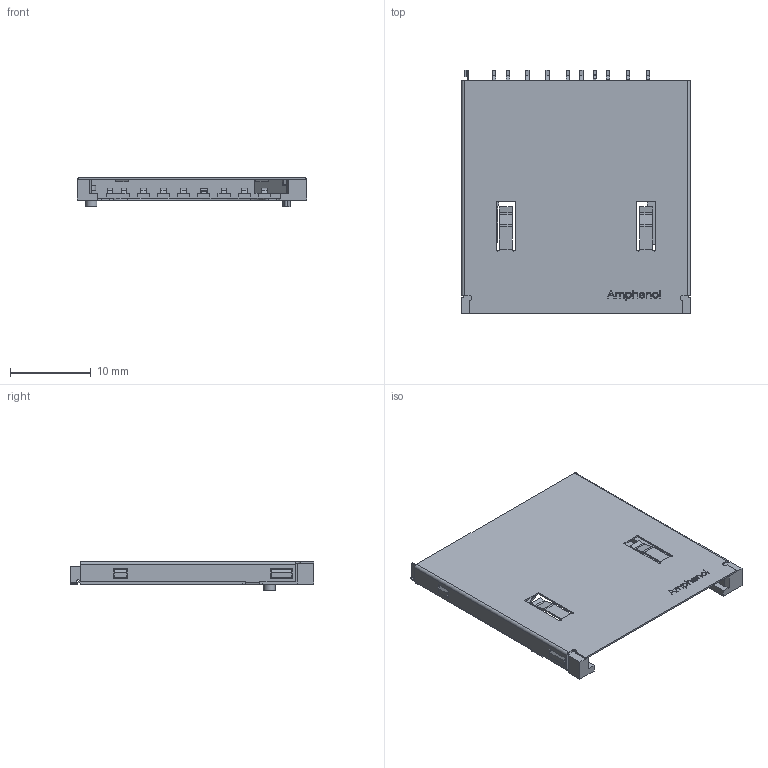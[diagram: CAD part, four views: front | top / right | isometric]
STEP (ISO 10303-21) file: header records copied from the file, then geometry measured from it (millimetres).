
FILE_DESCRIPTION(/* description */ (''),/* implementation_level */ '2;1');
FILE_NAME(/* name */ 'J:\KH_3D_lib\Amphenol\10067847-001RLF\10067847-001RLF_1.stp',/* time_stamp */ '2020-05-07T13:18:06+02:00',/* author */ ('Lord_voldmort'),/* organization */ ('FCI'),/* preprocessor_version */ 'ST-DEVELOPER v17.2',/* originating_system */ 'Autodesk Inventor 2019',/* authorisation */ '');
FILE_SCHEMA (('AUTOMOTIVE_DESIGN { 1 0 10303 214 3 1 1 }'));
Length unit declared in the file: millimetre
Products named in the file (8): 10067847-001RLF; ASM0002_ASM; ASM0003_ASM; PRT0003; PRT0005; contacts; Leads; Amphenol logo
Assembly tree (7 placements, depth 4):
  10067847-001RLF
    ASM0002_ASM
      ASM0003_ASM
        PRT0003
      PRT0005
    contacts
    Leads
    Amphenol logo
Bounding box: 28.45 x 30.25 x 3.6 mm (x, y, z)
Volume: 737.6 mm3; surface area: 3438.3 mm2
Topology: 30 solids, 30 shells, 634 faces, 1653 edges, 1085 vertices
Faces by surface type: plane 479, cylinder 105, bspline 50
Full cylindrical faces by diameter (mm): 1.4 x1
Entity records: 23123 total; most frequent: CARTESIAN_POINT 7329, ORIENTED_EDGE 3306, DIRECTION 2967, EDGE_CURVE 1653, LINE 1337, VECTOR 1337, VERTEX_POINT 1085, AXIS2_PLACEMENT_3D 815
